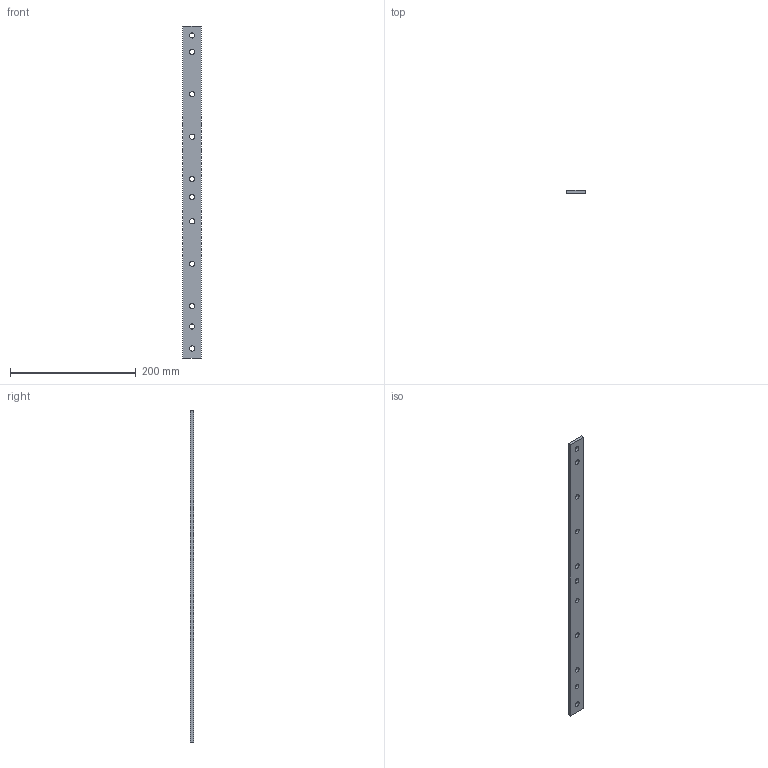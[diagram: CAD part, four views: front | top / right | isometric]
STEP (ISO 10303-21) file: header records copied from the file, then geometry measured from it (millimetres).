
FILE_DESCRIPTION(/* description */ (''),/* implementation_level */ '2;1');
FILE_NAME(/* name */ 'C:\Users\jaaku\OneDrive\Pulpit\Projekty\Politechnika Warszawska\BMS\Pliku produkcyjne\Listwa-miedz-2.stp',/* time_stamp */ '2022-01-08T12:33:58+01:00',/* author */ ('jaaku'),/* organization */ (''),/* preprocessor_version */ 'ST-DEVELOPER v18.1',/* originating_system */ 'Autodesk Inventor 2022',/* authorisation */ '');
FILE_SCHEMA (('AUTOMOTIVE_DESIGN { 1 0 10303 214 3 1 1 }'));
Length unit declared in the file: millimetre
Products named in the file (1): Listwa-miedz-2
Bounding box: 30 x 5 x 527 mm (x, y, z)
Volume: 76145.4 mm3; surface area: 37445 mm2
Topology: 1 solids, 1 shells, 17 faces, 45 edges, 30 vertices
Faces by surface type: cylinder 11, plane 6
Full cylindrical faces by diameter (mm): 8.2 x11
Entity records: 628 total; most frequent: DIRECTION 103, CARTESIAN_POINT 93, ORIENTED_EDGE 90, EDGE_CURVE 45, AXIS2_PLACEMENT_3D 40, EDGE_LOOP 39, VERTEX_POINT 30, LINE 23
